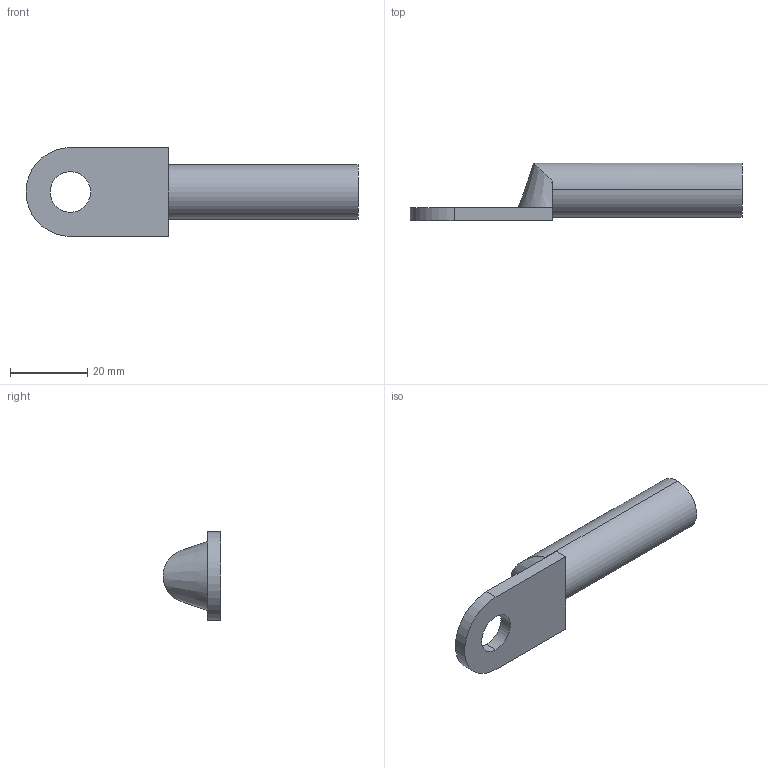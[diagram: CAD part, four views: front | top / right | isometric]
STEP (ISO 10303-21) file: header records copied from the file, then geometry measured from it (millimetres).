
FILE_DESCRIPTION (( 'STEP AP214' ), '1' );
FILE_NAME ('DT-50-10.STEP', '2020-04-24T12:43:24', ( '' ), ( '' ), 'SwSTEP 2.0', 'SolidWorks 2018', '' );
FILE_SCHEMA (( 'AUTOMOTIVE_DESIGN' ));
Length unit declared in the file: millimetre
Products named in the file (1): DT-50-10
Bounding box: 86 x 15 x 23 mm (x, y, z)
Volume: 6988.8 mm3; surface area: 5920.2 mm2
Topology: 1 solids, 1 shells, 17 faces, 44 edges, 30 vertices
Faces by surface type: plane 9, cylinder 7, cone 1
Entity records: 617 total; most frequent: CARTESIAN_POINT 153, DIRECTION 91, ORIENTED_EDGE 88, EDGE_CURVE 44, AXIS2_PLACEMENT_3D 34, VERTEX_POINT 30, VECTOR 23, LINE 23
